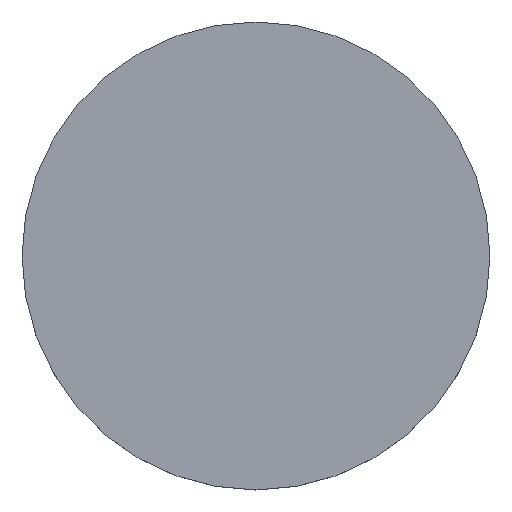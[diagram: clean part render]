
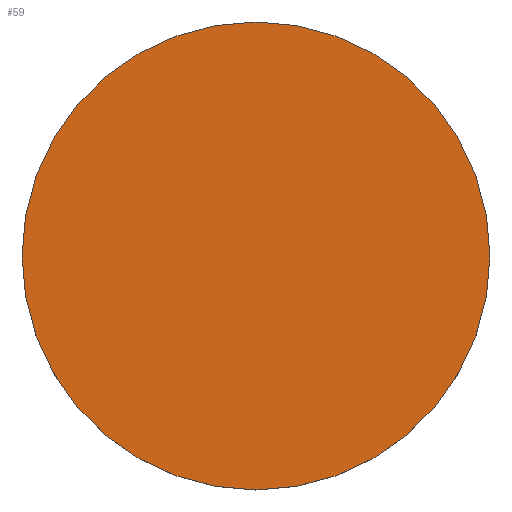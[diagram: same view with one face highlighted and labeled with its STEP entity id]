
A CAD part, top view. The second image highlights one B-rep face of the part: STEP entity #59.
In plain terms, the highlighted planar face has unit normal (0, 0, 1).
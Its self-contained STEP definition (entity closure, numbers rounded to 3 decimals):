
#24 = VERTEX_POINT('',#25);
#25 = CARTESIAN_POINT('',(19.8,24.,20.6));
#31 = EDGE_CURVE('',#24,#24,#32,.T.);
#32 = CIRCLE('',#33,4.8);
#33 = AXIS2_PLACEMENT_3D('',#34,#35,#36);
#34 = CARTESIAN_POINT('',(15.,24.,20.6));
#35 = DIRECTION('',(0.,0.,1.));
#36 = DIRECTION('',(1.,0.,0.));
#59 = ADVANCED_FACE('',(#60),#63,.T.);
#60 = FACE_BOUND('',#61,.F.);
#61 = EDGE_LOOP('',(#62));
#62 = ORIENTED_EDGE('',*,*,#31,.F.);
#63 = PLANE('',#64);
#64 = AXIS2_PLACEMENT_3D('',#65,#66,#67);
#65 = CARTESIAN_POINT('',(15.,24.,20.6));
#66 = DIRECTION('',(0.,0.,1.));
#67 = DIRECTION('',(1.,0.,0.));
